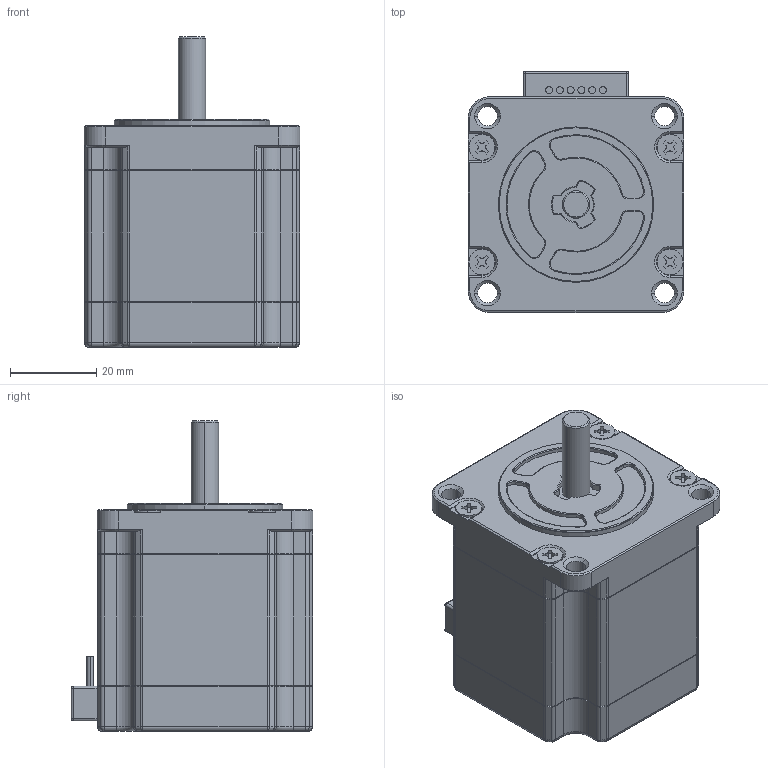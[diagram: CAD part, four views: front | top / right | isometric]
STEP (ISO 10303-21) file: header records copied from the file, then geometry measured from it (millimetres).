
FILE_DESCRIPTION (( 'STEP AP203' ), '1' );
FILE_NAME ('103H6703-0740.STEP', '2013-12-26T11:01:58', ( ' ' ), ( '' ), 'SwSTEP 2.0', 'SolidWorks 2012', '' );
FILE_SCHEMA (( 'CONFIG_CONTROL_DESIGN' ));
Length unit declared in the file: millimetre
Products named in the file (1): 103H6703-0740
Bounding box: 50 x 56 x 71.9 mm (x, y, z)
Volume: 117283.9 mm3; surface area: 16126.2 mm2
Topology: 1 solids, 1 shells, 606 faces, 1493 edges, 907 vertices
Faces by surface type: plane 220, cylinder 207, cone 111, torus 36, sphere 20, bspline 12
Entity records: 18192 total; most frequent: CARTESIAN_POINT 3634, DIRECTION 3186, ORIENTED_EDGE 2962, EDGE_CURVE 1481, AXIS2_PLACEMENT_3D 1198, VERTEX_POINT 907, LINE 790, VECTOR 790
